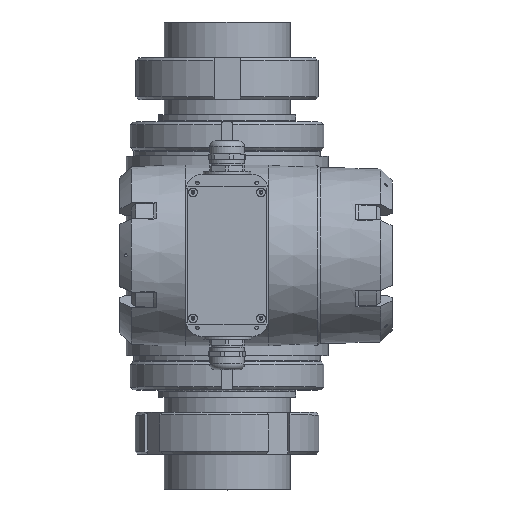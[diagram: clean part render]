
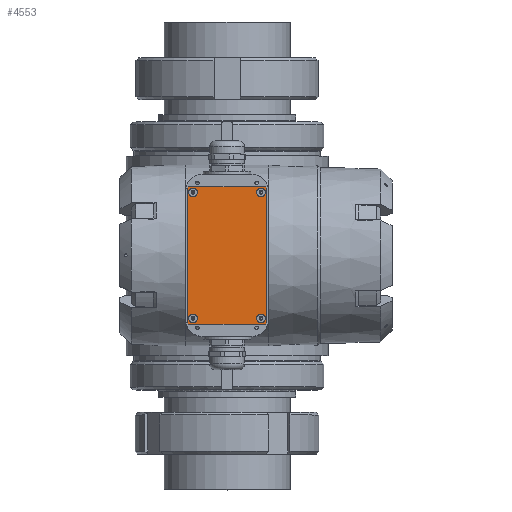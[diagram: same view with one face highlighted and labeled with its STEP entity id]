
A CAD part, top view. The second image highlights one B-rep face of the part: STEP entity #4553.
In plain terms, the highlighted planar face has unit normal (0, 0, 1).
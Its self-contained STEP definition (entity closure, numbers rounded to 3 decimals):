
#4553=ADVANCED_FACE('',(#24658,#24660,#24662,#24664,#24666),#24668,.T.);
#24658=FACE_BOUND('',#24659,.T.);
#24659=EDGE_LOOP('',(#30081,#30082,#30083,#30084,#30085,#30086,#30087,#30088));
#24660=FACE_BOUND('',#24661,.T.);
#24661=EDGE_LOOP('',(#30089));
#24662=FACE_BOUND('',#24663,.T.);
#24663=EDGE_LOOP('',(#30090));
#24664=FACE_BOUND('',#24665,.T.);
#24665=EDGE_LOOP('',(#30091));
#24666=FACE_BOUND('',#24667,.T.);
#24667=EDGE_LOOP('',(#30092));
#24668=PLANE('',#24669);
#24669=AXIS2_PLACEMENT_3D('',#24670,#24671,#24672);
#24670=CARTESIAN_POINT('',(0.,0.,255.872));
#24671=DIRECTION('',(0.,0.,1.));
#24672=DIRECTION('',(0.,1.,0.));
#30081=ORIENTED_EDGE('',*,*,#32778,.F.);
#30082=ORIENTED_EDGE('',*,*,#32792,.T.);
#30083=ORIENTED_EDGE('',*,*,#32790,.F.);
#30084=ORIENTED_EDGE('',*,*,#32788,.T.);
#30085=ORIENTED_EDGE('',*,*,#32786,.F.);
#30086=ORIENTED_EDGE('',*,*,#32784,.T.);
#30087=ORIENTED_EDGE('',*,*,#32782,.F.);
#30088=ORIENTED_EDGE('',*,*,#32780,.T.);
#30089=ORIENTED_EDGE('',*,*,#32908,.F.);
#30090=ORIENTED_EDGE('',*,*,#32909,.F.);
#30091=ORIENTED_EDGE('',*,*,#32910,.F.);
#30092=ORIENTED_EDGE('',*,*,#32911,.F.);
#32778=EDGE_CURVE('',#35518,#35520,#35521,.F.);
#32780=EDGE_CURVE('',#35523,#35520,#35524,.T.);
#32782=EDGE_CURVE('',#35523,#35526,#35527,.F.);
#32784=EDGE_CURVE('',#35529,#35526,#35530,.T.);
#32786=EDGE_CURVE('',#35529,#35532,#35533,.F.);
#32788=EDGE_CURVE('',#35535,#35532,#35536,.T.);
#32790=EDGE_CURVE('',#35535,#35538,#35539,.F.);
#32792=EDGE_CURVE('',#35518,#35538,#35541,.T.);
#32908=EDGE_CURVE('',#35748,#35748,#35749,.T.);
#32909=EDGE_CURVE('',#35750,#35750,#35751,.T.);
#32910=EDGE_CURVE('',#35752,#35752,#35753,.T.);
#32911=EDGE_CURVE('',#35754,#35754,#35755,.T.);
#35518=VERTEX_POINT('',#53208);
#35520=VERTEX_POINT('',#53212);
#35521=LINE('',#53213,#53214);
#35523=VERTEX_POINT('',#53219);
#35524=LINE('',#53220,#53221);
#35526=VERTEX_POINT('',#53226);
#35527=LINE('',#53227,#53228);
#35529=VERTEX_POINT('',#53233);
#35530=LINE('',#53234,#53235);
#35532=VERTEX_POINT('',#53240);
#35533=LINE('',#53241,#53242);
#35535=VERTEX_POINT('',#53247);
#35536=LINE('',#53248,#53249);
#35538=VERTEX_POINT('',#53254);
#35539=LINE('',#53255,#53256);
#35541=LINE('',#53261,#53262);
#35748=VERTEX_POINT('',#54205);
#35749=CIRCLE('',#54206,3.);
#35750=VERTEX_POINT('',#54210);
#35751=CIRCLE('',#54211,3.);
#35752=VERTEX_POINT('',#54215);
#35753=CIRCLE('',#54216,3.);
#35754=VERTEX_POINT('',#54220);
#35755=CIRCLE('',#54221,3.);
#53208=CARTESIAN_POINT('',(-26.5,-47.5,255.872));
#53212=CARTESIAN_POINT('',(-27.5,-46.5,255.872));
#53213=CARTESIAN_POINT('',(-27.5,-46.5,255.872));
#53214=VECTOR('',#53215,1.);
#53215=DIRECTION('',(0.707,-0.707,0.));
#53219=CARTESIAN_POINT('',(-27.5,46.5,255.872));
#53220=CARTESIAN_POINT('',(-27.5,46.5,255.872));
#53221=VECTOR('',#53222,1.);
#53222=DIRECTION('',(0.,-1.,0.));
#53226=CARTESIAN_POINT('',(-26.5,47.5,255.872));
#53227=CARTESIAN_POINT('',(-26.5,47.5,255.872));
#53228=VECTOR('',#53229,1.);
#53229=DIRECTION('',(-0.707,-0.707,0.));
#53233=CARTESIAN_POINT('',(26.5,47.5,255.872));
#53234=CARTESIAN_POINT('',(26.5,47.5,255.872));
#53235=VECTOR('',#53236,1.);
#53236=DIRECTION('',(-1.,0.,0.));
#53240=CARTESIAN_POINT('',(27.5,46.5,255.872));
#53241=CARTESIAN_POINT('',(27.5,46.5,255.872));
#53242=VECTOR('',#53243,1.);
#53243=DIRECTION('',(-0.707,0.707,0.));
#53247=CARTESIAN_POINT('',(27.5,-46.5,255.872));
#53248=CARTESIAN_POINT('',(27.5,-46.5,255.872));
#53249=VECTOR('',#53250,1.);
#53250=DIRECTION('',(0.,1.,0.));
#53254=CARTESIAN_POINT('',(26.5,-47.5,255.872));
#53255=CARTESIAN_POINT('',(26.5,-47.5,255.872));
#53256=VECTOR('',#53257,1.);
#53257=DIRECTION('',(0.707,0.707,0.));
#53261=CARTESIAN_POINT('',(-26.5,-47.5,255.872));
#53262=VECTOR('',#53263,1.);
#53263=DIRECTION('',(1.,0.,0.));
#54205=CARTESIAN_POINT('',(26.5,-43.5,255.872));
#54206=AXIS2_PLACEMENT_3D('',#54207,#54208,#54209);
#54207=CARTESIAN_POINT('',(23.5,-43.5,255.872));
#54208=DIRECTION('',(0.,0.,1.));
#54209=DIRECTION('',(1.,0.,0.));
#54210=CARTESIAN_POINT('',(-20.5,43.5,255.872));
#54211=AXIS2_PLACEMENT_3D('',#54212,#54213,#54214);
#54212=CARTESIAN_POINT('',(-23.5,43.5,255.872));
#54213=DIRECTION('',(0.,0.,1.));
#54214=DIRECTION('',(1.,0.,0.));
#54215=CARTESIAN_POINT('',(-20.5,-43.5,255.872));
#54216=AXIS2_PLACEMENT_3D('',#54217,#54218,#54219);
#54217=CARTESIAN_POINT('',(-23.5,-43.5,255.872));
#54218=DIRECTION('',(0.,0.,1.));
#54219=DIRECTION('',(1.,0.,0.));
#54220=CARTESIAN_POINT('',(26.5,43.5,255.872));
#54221=AXIS2_PLACEMENT_3D('',#54222,#54223,#54224);
#54222=CARTESIAN_POINT('',(23.5,43.5,255.872));
#54223=DIRECTION('',(0.,0.,1.));
#54224=DIRECTION('',(1.,0.,0.));
